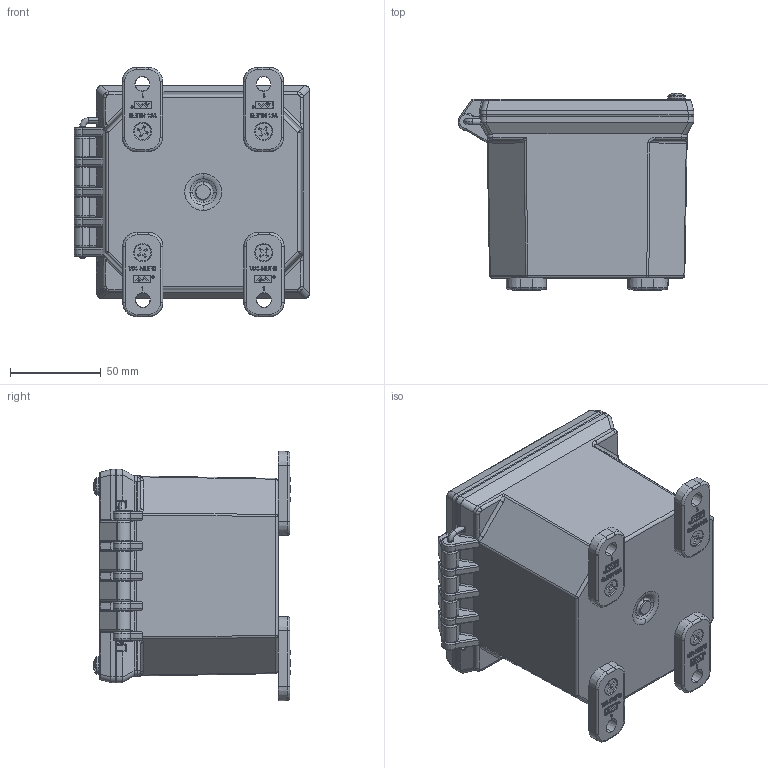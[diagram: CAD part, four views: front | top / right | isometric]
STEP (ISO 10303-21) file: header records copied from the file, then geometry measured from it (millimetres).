
FILE_DESCRIPTION (( 'STEP AP203' ), '1' );
FILE_NAME ('PCJ443CCH.STEP', '2019-10-22T15:11:43', ( 'Admin' ), ( '' ), 'SwSTEP 2.0', 'SolidWorks 2019', '' );
FILE_SCHEMA (( 'CONFIG_CONTROL_DESIGN' ));
Length unit declared in the file: inch
Products named in the file (23): 70-608443-1; 70-1012316_90055A312; WPH443BI2; AMP443CCH; 2381001; 70-60250; WUFOOT; 70-10165_92525A912; PCJ443CCH; WGPH44CX; WPH443B_WPH44B; WP44C_Gasket Profile; WGP44C-GASKET; WPH44C_WPH44CX; CMSO316; WPH44CX; 70-HPIN4316; 70-007ORING; 70-1032342316_70-1032342316
Assembly tree (34 placements, depth 5):
  PCJ443CCH
    AMP443CCH
      WPH443BI2
        70-60250  x2
        WPH443B_WPH44B
      WGPH44CX
        WPH44CX
          WPH44C_WPH44CX
        WGP44C-GASKET
          WP44C_Gasket Profile
      70-HPIN4316
      CMSO316
        70-1032342316_70-1032342316
        70-007ORING
      CMSO316
        70-1032342316_70-1032342316
        70-007ORING
      70-608443-1
      70-10165_92525A912  x4
      WUFOOT
        2381001
      WUFOOT
        2381001
      WUFOOT
        2381001
      WUFOOT
        2381001
      70-1012316_90055A312  x4
Bounding box: 129.74 x 108.59 x 137.29 mm (x, y, z)
Volume: 439575.3 mm3; surface area: 239811 mm2
Topology: 25 solids, 25 shells, 3816 faces, 9857 edges, 6217 vertices
Faces by surface type: plane 1555, cylinder 1075, bspline 616, torus 244, cone 194, sphere 132
Entity records: 103991 total; most frequent: CARTESIAN_POINT 41194, ORIENTED_EDGE 13266, DIRECTION 11587, EDGE_CURVE 6633, VERTEX_POINT 4144, AXIS2_PLACEMENT_3D 4018, LINE 3551, VECTOR 3551
